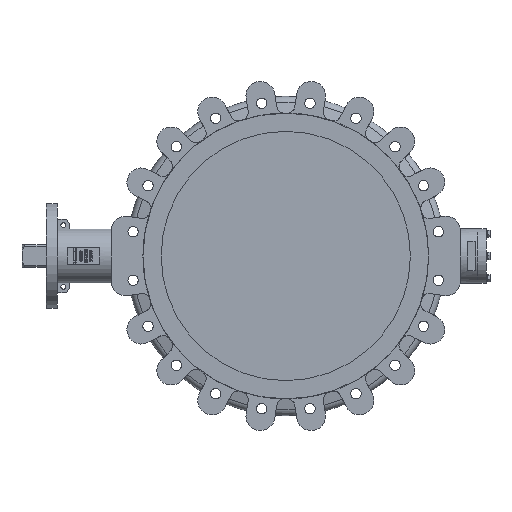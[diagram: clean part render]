
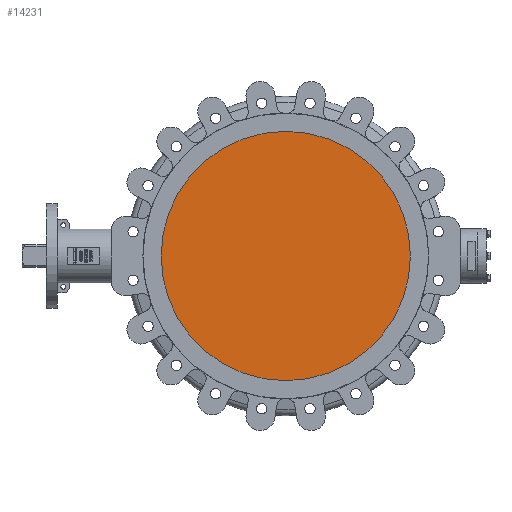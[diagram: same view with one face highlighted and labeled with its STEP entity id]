
A CAD part, left-side view. The second image highlights one B-rep face of the part: STEP entity #14231.
In plain terms, the highlighted planar face has unit normal (-1, 0, 0).
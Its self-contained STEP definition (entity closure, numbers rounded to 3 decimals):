
#513=PLANE('',#15245);
#1759=FACE_OUTER_BOUND('',#2581,.T.);
#2581=EDGE_LOOP('',(#12179));
#5295=CIRCLE('',#15244,250.);
#6556=VERTEX_POINT('',#26302);
#8460=EDGE_CURVE('',#6556,#6556,#5295,.T.);
#12179=ORIENTED_EDGE('',*,*,#8460,.F.);
#14231=ADVANCED_FACE('',(#1759),#513,.F.);
#15244=AXIS2_PLACEMENT_3D('',#26304,#18117,#18118);
#15245=AXIS2_PLACEMENT_3D('',#26305,#18119,#18120);
#18117=DIRECTION('center_axis',(1.,0.,0.));
#18118=DIRECTION('ref_axis',(0.,0.,-1.));
#18119=DIRECTION('center_axis',(1.,0.,0.));
#18120=DIRECTION('ref_axis',(0.,0.,-1.));
#26302=CARTESIAN_POINT('',(-55.454,-63.802,250.));
#26304=CARTESIAN_POINT('Origin',(-55.454,-63.802,0.));
#26305=CARTESIAN_POINT('Origin',(-55.454,-63.802,0.));
